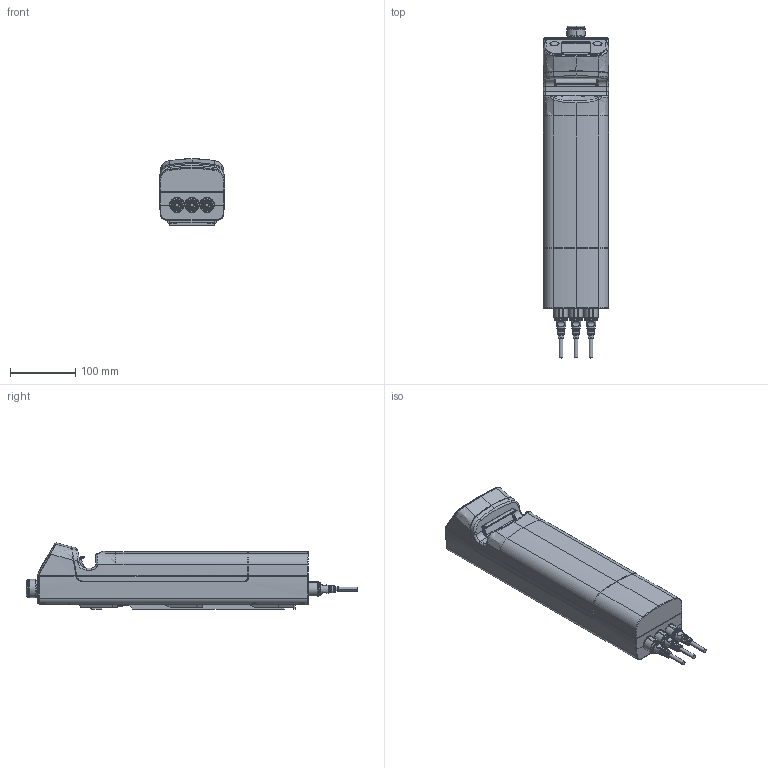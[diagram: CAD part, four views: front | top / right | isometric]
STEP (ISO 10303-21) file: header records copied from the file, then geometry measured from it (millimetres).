
FILE_DESCRIPTION (( 'STEP AP203' ), '1' );
FILE_NAME ('3D_TC12 (2.9A).STEP', '2014-03-04T07:33:49', ( '' ), ( '' ), 'SwSTEP 2.0', 'SolidWorks 2010', '' );
FILE_SCHEMA (( 'CONFIG_CONTROL_DESIGN' ));
Products named in the file (1): 3D_TC12 (2.9A)
Bounding box: 100 x 509.3 x 101.9 mm (x, y, z)
Volume: 3200966.8 mm3; surface area: 397507 mm2
Topology: 18 solids, 18 shells, 1474 faces, 3674 edges, 2282 vertices
Faces by surface type: plane 589, cylinder 401, torus 181, bspline 154, cone 120, sphere 29
Entity records: 77479 total; most frequent: CARTESIAN_POINT 42879, ORIENTED_EDGE 7308, DIRECTION 7174, EDGE_CURVE 3654, AXIS2_PLACEMENT_3D 2811, VERTEX_POINT 2278, EDGE_LOOP 1564, LINE 1552
